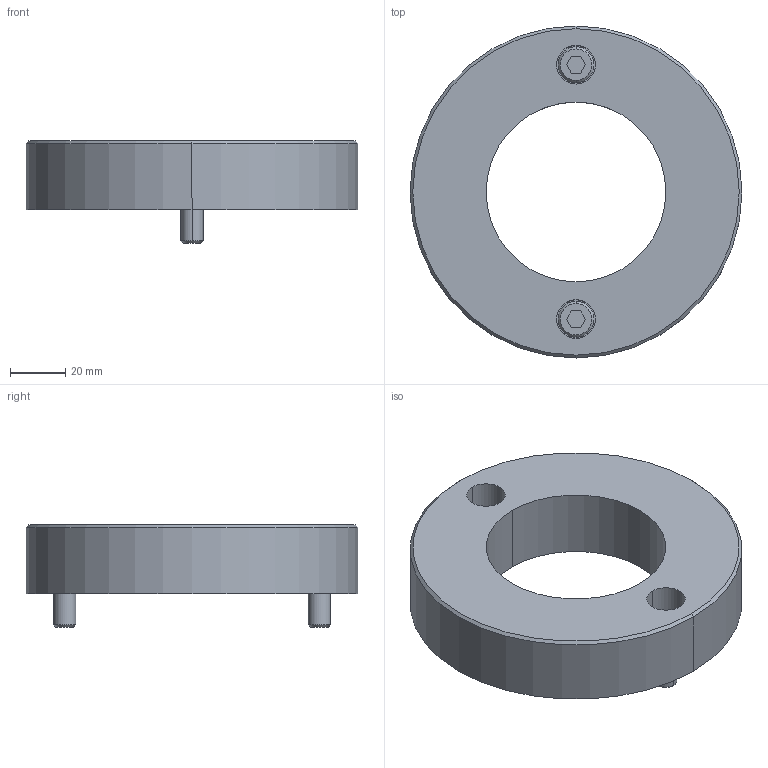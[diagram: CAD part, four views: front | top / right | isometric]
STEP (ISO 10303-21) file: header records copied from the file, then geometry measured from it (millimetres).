
FILE_DESCRIPTION((''),'2;1');
FILE_NAME('','2010-08-30T17:18:11+09:00',('misumi'),(''),'M/STEP i/f 1R2-14','CADmeister v5.1','');
FILE_SCHEMA(('AUTOMOTIVE_DESIGN'));
Length unit declared in the file: millimetre
Products named in the file (1): GEB60-25-Y
Bounding box: 120 x 120 x 37 mm (x, y, z)
Volume: 197195 mm3; surface area: 34276.9 mm2
Topology: 3 solids, 3 shells, 54 faces, 116 edges, 74 vertices
Faces by surface type: plane 24, cylinder 20, cone 10
Entity records: 1592 total; most frequent: DIRECTION 276, CARTESIAN_POINT 245, ORIENTED_EDGE 232, EDGE_CURVE 116, AXIS2_PLACEMENT_3D 105, VERTEX_POINT 74, LINE 66, VECTOR 66
